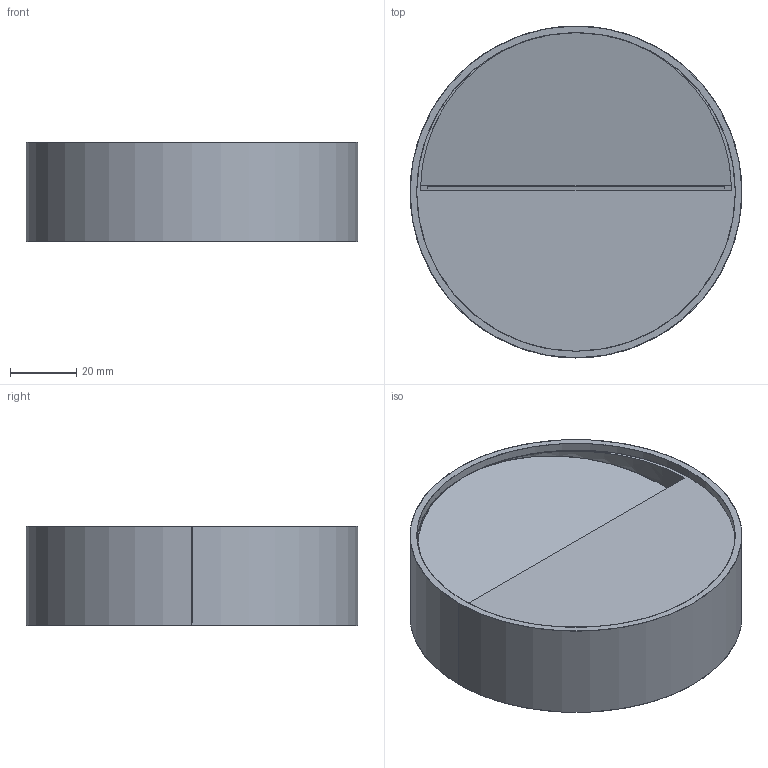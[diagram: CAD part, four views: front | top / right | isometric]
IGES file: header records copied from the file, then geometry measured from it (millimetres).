
Start section: SolidWorks IGES file using analytic representation for surfaces
Global section: file name: C:\Users\danielet\Desktop\3D CARLOS\SPICA-A2061-3D\SPICA-A2061-3D.IGS; native system: SolidWorks 2018; preprocessor: SolidWorks 2018; author: danielet; date: 220111.110350; units: millimetre
Bounding box: 100 x 100 x 30 mm (x, y, z)
Surface area: 27236.6 mm2 (no closed solid volume)
Topology: 0 solids, 0 shells, 16 faces, 391 edges, 390 vertices
Faces by surface type: bspline 10, revolution 6
